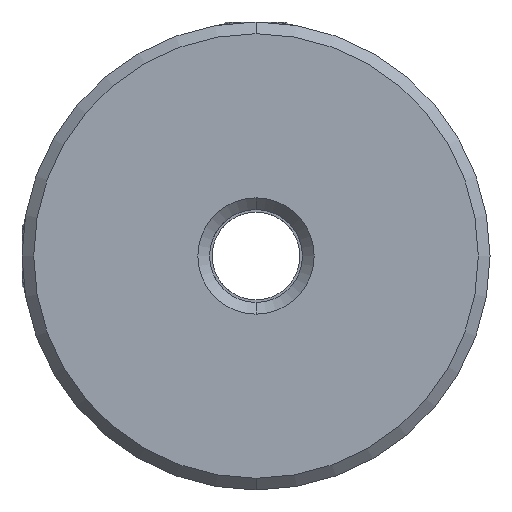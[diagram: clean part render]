
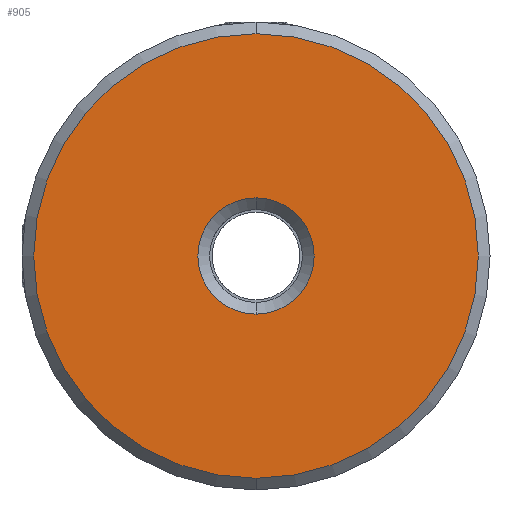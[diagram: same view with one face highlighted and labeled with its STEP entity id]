
A CAD part, front view. The second image highlights one B-rep face of the part: STEP entity #905.
In plain terms, the highlighted planar face has unit normal (0, -1, 0).
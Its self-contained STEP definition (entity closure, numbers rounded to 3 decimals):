
#20 = DIRECTION ( 'NONE',  ( 0., 1., 0. ) ) ;
#96 = CARTESIAN_POINT ( 'NONE',  ( -10.188, -0.277, 0.046 ) ) ;
#185 = CARTESIAN_POINT ( 'NONE',  ( -10.188, -0.277, 0.046 ) ) ;
#218 = FACE_OUTER_BOUND ( 'NONE', #3274, .T. ) ;
#312 = ORIENTED_EDGE ( 'NONE', *, *, #1561, .T. ) ;
#385 = ORIENTED_EDGE ( 'NONE', *, *, #2391, .T. ) ;
#386 = DIRECTION ( 'NONE',  ( 0., -1., 0. ) ) ;
#391 = VERTEX_POINT ( 'NONE', #2036 ) ;
#404 = ORIENTED_EDGE ( 'NONE', *, *, #2785, .T. ) ;
#532 = CIRCLE ( 'NONE', #1879, 15.2 ) ;
#829 = DIRECTION ( 'NONE',  ( 0., 0., 1. ) ) ;
#862 = VERTEX_POINT ( 'NONE', #1958 ) ;
#905 = ADVANCED_FACE ( 'NONE', ( #218, #3358 ), #1917, .F. ) ;
#929 = EDGE_CURVE ( 'NONE', #1821, #391, #1100, .T. ) ;
#1035 = AXIS2_PLACEMENT_3D ( 'NONE', #185, #2226, #829 ) ;
#1085 = DIRECTION ( 'NONE',  ( 0., -1., 0. ) ) ;
#1100 = CIRCLE ( 'NONE', #2675, 3.975 ) ;
#1271 = AXIS2_PLACEMENT_3D ( 'NONE', #96, #386, #2938 ) ;
#1561 = EDGE_CURVE ( 'NONE', #862, #1985, #532, .T. ) ;
#1806 = CARTESIAN_POINT ( 'NONE',  ( -10.188, -0.277, 0.046 ) ) ;
#1821 = VERTEX_POINT ( 'NONE', #3390 ) ;
#1879 = AXIS2_PLACEMENT_3D ( 'NONE', #3377, #1085, #2512 ) ;
#1917 = PLANE ( 'NONE',  #1035 ) ;
#1958 = CARTESIAN_POINT ( 'NONE',  ( -10.188, -0.277, -15.154 ) ) ;
#1985 = VERTEX_POINT ( 'NONE', #3279 ) ;
#2036 = CARTESIAN_POINT ( 'NONE',  ( -10.188, -0.277, 4.021 ) ) ;
#2128 = AXIS2_PLACEMENT_3D ( 'NONE', #1806, #20, #2952 ) ;
#2226 = DIRECTION ( 'NONE',  ( 0., 1., 0. ) ) ;
#2391 = EDGE_CURVE ( 'NONE', #1985, #862, #3687, .T. ) ;
#2488 = DIRECTION ( 'NONE',  ( 0., 0., 1. ) ) ;
#2512 = DIRECTION ( 'NONE',  ( 0., 0., 1. ) ) ;
#2675 = AXIS2_PLACEMENT_3D ( 'NONE', #3071, #2864, #2488 ) ;
#2785 = EDGE_CURVE ( 'NONE', #391, #1821, #2976, .T. ) ;
#2864 = DIRECTION ( 'NONE',  ( 0., 1., 0. ) ) ;
#2938 = DIRECTION ( 'NONE',  ( 0., 0., 1. ) ) ;
#2952 = DIRECTION ( 'NONE',  ( 0., 0., 1. ) ) ;
#2976 = CIRCLE ( 'NONE', #2128, 3.975 ) ;
#2993 = ORIENTED_EDGE ( 'NONE', *, *, #929, .T. ) ;
#3071 = CARTESIAN_POINT ( 'NONE',  ( -10.188, -0.277, 0.046 ) ) ;
#3274 = EDGE_LOOP ( 'NONE', ( #385, #312 ) ) ;
#3279 = CARTESIAN_POINT ( 'NONE',  ( -10.188, -0.277, 15.246 ) ) ;
#3358 = FACE_BOUND ( 'NONE', #3468, .T. ) ;
#3377 = CARTESIAN_POINT ( 'NONE',  ( -10.188, -0.277, 0.046 ) ) ;
#3390 = CARTESIAN_POINT ( 'NONE',  ( -10.188, -0.277, -3.929 ) ) ;
#3468 = EDGE_LOOP ( 'NONE', ( #2993, #404 ) ) ;
#3687 = CIRCLE ( 'NONE', #1271, 15.2 ) ;
